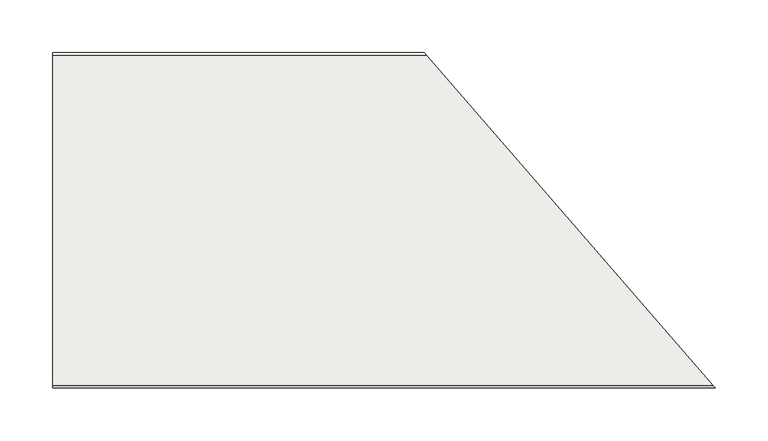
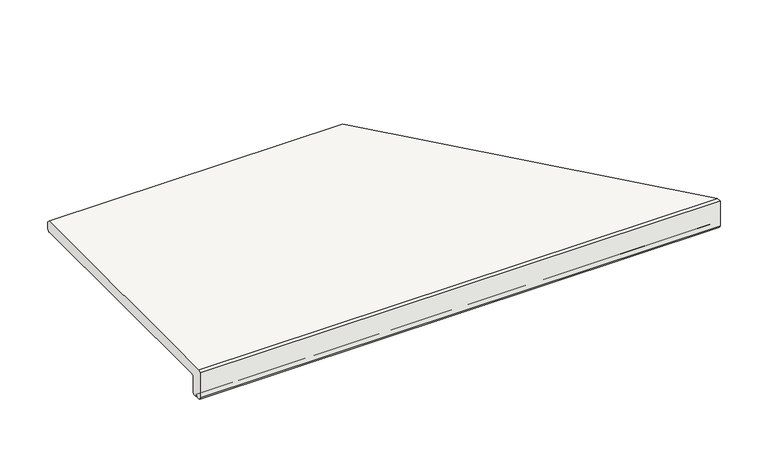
"""IFC4 building model written with IfcOpenShell, lengths in millimetres: slab geometry, ROSA GRES_L62 (corte-profundidad) : Pieza L62_Mistery_Grey_Anti-Slip."""

from ifc_helpers import new_model, si_unit, frame, origin, place, context, project, spatial, polyline, circle_curve, ellipse_curve, source, transform, mapped, element, save
from ifc_brep_helpers import plane_surface, cylinder_surface, revolved_surface, advanced_brep


def slab_0be0ad86(model_context):
    return source(origin(), model_context, "Body", "AdvancedBrep", [
        advanced_brep(
        [(0.0, 11.8865989, -24.0), (0.0, 9.4124925, -24.0), (0.0, 9.4124925, -23.0), (0.0, 5.422949, -23.0), (0.0, 2.5, -23.0), (0.0, 0.0, -20.5), (0.0, 0.0, 11.5), (0.0, 2.5, 14.0), (0.0, 314.5, 14.0), (0.0, 317.0, 11.5), (0.0, 317.0, 2.5268156), (0.0, 314.5178771, 0.0446927), (0.0, 16.4230659, 0.0446927), (0.0, 13.8100559, -2.5683173), (0.0, 13.8100559, -22.076543), (615.2703915, 11.8865989, -24.0), (617.4135297, 9.4124925, -24.0), (617.4135297, 9.4124925, -23.0), (620.8693806, 5.422949, -23.0), (623.4013185, 2.5, -23.0), (625.5668864, 0.0, -20.5), (625.5668864, 0.0, 11.5), (623.4013185, 2.5, 14.0), (353.1384405, 314.5, 14.0), (350.9728726, 317.0, 11.5), (350.9728726, 317.0, 2.5268156), (353.1229549, 314.5178771, 0.0446927), (611.3407804, 16.4230659, 0.0446927), (613.6042408, 13.8100559, -2.5683173), (613.6042408, 13.8100559, -22.076543)],
        [
            (0, 1),
            (1, 2),
            (2, 3, circle_curve(frame((0.0, 7.4177208, -23.0), z_axis=(1.0, 0.0, 0.0), x_axis=(0.0, 1.0, 0.0)), 1.9947717)),
            (3, 4),
            (4, 5, circle_curve(frame((0.0, 2.5, -20.5), z_axis=(-1.0, 0.0, 0.0), x_axis=(0.0, 1.0, 0.0)), 2.5)),
            (5, 6),
            (6, 7),
            (7, 8),
            (8, 9),
            (9, 10),
            (10, 11, circle_curve(frame((0.0, 314.5178771, 2.5268156), z_axis=(-1.0, 0.0, 0.0), x_axis=(0.0, 1.0, 0.0)), 2.4821229)),
            (11, 12),
            (12, 13, circle_curve(frame((0.0, 16.4230659, -2.5683173), z_axis=(1.0, 0.0, 0.0), x_axis=(0.0, 1.0, 0.0)), 2.6130101)),
            (13, 14),
            (14, 0, circle_curve(frame((0.0, 11.8865989, -22.076543), z_axis=(-1.0, 0.0, 0.0), x_axis=(0.0, 1.0, 0.0)), 1.923457)),
            (0, 15),
            (15, 16),
            (16, 1),
            (2, 17),
            (17, 18, ellipse_curve(frame((619.1414551, 7.4177208, -23.0), z_axis=(0.7558534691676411, 0.6547408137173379, 0.0), x_axis=(0.654740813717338, -0.7558534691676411, 0.0)), 2.6390985, 1.9947717)),
            (18, 3),
            (18, 19),
            (19, 4),
            (19, 20, ellipse_curve(frame((623.4013185, 2.5, -20.5), z_axis=(-0.7558534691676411, -0.6547408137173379, 0.0), x_axis=(-0.654740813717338, 0.7558534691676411, 0.0)), 3.3075194, 2.5)),
            (20, 5),
            (20, 21),
            (21, 6),
            (7, 22),
            (22, 23),
            (23, 8),
            (9, 24),
            (24, 25),
            (25, 10),
            (25, 26, ellipse_curve(frame((353.1229549, 314.5178771, 2.5268156), z_axis=(-0.7558534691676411, -0.6547408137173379, 0.0), x_axis=(-0.654740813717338, 0.7558534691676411, 0.0)), 3.2838678, 2.4821229)),
            (26, 11),
            (26, 27),
            (27, 12),
            (27, 28, ellipse_curve(frame((611.3407804, 16.4230659, -2.5683173), z_axis=(0.7558534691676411, 0.6547408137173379, 0.0), x_axis=(0.654740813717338, -0.7558534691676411, 0.0)), 3.4570326, 2.6130101)),
            (28, 13),
            (28, 29),
            (29, 14),
            (29, 15, ellipse_curve(frame((615.2703915, 11.8865989, -22.076543), z_axis=(-0.7558534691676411, -0.6547408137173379, 0.0), x_axis=(-0.654740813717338, 0.7558534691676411, 0.0)), 2.5447485, 1.923457)),
            (21, 22),
            (23, 24),
            (16, 17),
        ],
        [
            plane_surface(frame((0.0, 0.0, 0.0), z_axis=(-1.0, 0.0, 0.0), x_axis=(0.0, 0.0, 1.0))),
            plane_surface(frame((0.0, 11.8865989, -24.0), z_axis=(0.0, 0.0, -1.0), x_axis=(1.0, 0.0, 0.0))),
            revolved_surface(polyline([(620.8693806, 9.412492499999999, -23.0), (0.0, 9.412492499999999, -23.0)]), (0.0, 7.4177208, -23.0), (1.0, 0.0, 0.0)),
            plane_surface(frame((0.0, 5.422949, -23.0), z_axis=(0.0, 0.0, -1.0), x_axis=(1.0, 0.0, 0.0))),
            cylinder_surface(frame((0.0, 2.5, -20.5), z_axis=(-1.0, 0.0, 0.0), x_axis=(0.0, 1.0, 0.0)), 2.5),
            plane_surface(frame((0.0, 0.0, -20.5), z_axis=(0.0, -1.0, 0.0), x_axis=(1.0, 0.0, 0.0))),
            plane_surface(frame((0.0, 2.5, 14.0), z_axis=(0.0, 0.0, 1.0), x_axis=(1.0, 0.0, 0.0))),
            plane_surface(frame((0.0, 317.0, 11.5), z_axis=(0.0, 1.0, 0.0), x_axis=(1.0, 0.0, 0.0))),
            cylinder_surface(frame((0.0, 314.5178771, 2.5268156), z_axis=(-1.0, 0.0, 0.0), x_axis=(0.0, 1.0, 0.0)), 2.4821229),
            plane_surface(frame((0.0, 314.5178771, 0.0446927), z_axis=(0.0, 0.0, -1.0), x_axis=(1.0, 0.0, 0.0))),
            revolved_surface(polyline([(613.6042408, 19.036076, -2.5683173), (0.0, 19.036076, -2.5683173)]), (0.0, 16.4230659, -2.5683173), (1.0, 0.0, 0.0)),
            plane_surface(frame((0.0, 13.8100559, -2.5683173), z_axis=(0.0, 1.0, 0.0), x_axis=(1.0, 0.0, 0.0))),
            cylinder_surface(frame((0.0, 11.8865989, -22.076543), z_axis=(-1.0, 0.0, 0.0), x_axis=(0.0, 1.0, 0.0)), 1.923457),
            plane_surface(frame((0.0, 0.0, 11.5), z_axis=(0.0, -0.7071067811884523, 0.7071067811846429), x_axis=(1.0, 0.0, 0.0))),
            plane_surface(frame((0.0, 314.5, 14.0), z_axis=(0.0, 0.7071067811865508, 0.7071067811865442), x_axis=(1.0, 0.0, 0.0))),
            plane_surface(frame((0.0, 9.4124925, -24.0), z_axis=(0.0, -1.0, 0.0), x_axis=(1.0, 0.0, 0.0))),
            plane_surface(frame((350.539759, 317.5, 86.9871832), z_axis=(0.7558534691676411, 0.6547408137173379, 0.0), x_axis=(0.0, 0.0, -1.0))),
        ],
        [
            (0, [[1, 2, 3, 4, 5, 6, 7, 8, 9, 10, 11, 12, 13, 14, 15]]),
            (1, [[-1, 16, 17, 18]]),
            (2, [[-3, 19, 20, 21]]),
            (3, [[-4, -21, 22, 23]]),
            (4, [[-5, -23, 24, 25]]),
            (5, [[-6, -25, 26, 27]]),
            (6, [[-8, 28, 29, 30]]),
            (7, [[-10, 31, 32, 33]]),
            (8, [[-11, -33, 34, 35]]),
            (9, [[-12, -35, 36, 37]]),
            (10, [[-13, -37, 38, 39]]),
            (11, [[-14, -39, 40, 41]]),
            (12, [[-15, -41, 42, -16]]),
            (13, [[-7, -27, 43, -28]]),
            (14, [[-9, -30, 44, -31]]),
            (15, [[-2, -18, 45, -19]]),
            (16, [[-17, -42, -40, -38, -36, -34, -32, -44, -29, -43, -26, -24, -22, -20, -45]]),
        ],
    ),
    ])


if __name__ == "__main__":
    model = new_model("IFC4")
    model_context = context("Model", 3, world=origin())
    ifc_project = project(units=[si_unit("LENGTHUNIT", "METRE", prefix="MILLI")], contexts=[model_context])
    site = spatial("IfcSite", under=ifc_project)
    building = spatial("IfcBuilding", under=site)
    placement = place(None, origin())
    slab_shape = slab_0be0ad86(model_context)
    element("IfcSlab", 1, ObjectType="ROSA GRES_L62 (corte-profundidad) : Pieza L62_Mistery_Grey_Anti-Slip", at=placement, inside=building, context=model_context, shape_type="MappedRepresentation", body=[
        mapped(slab_shape, transform((0.0, 0.0, 0.0), x_axis=(1.0, 0.0, 0.0), y_axis=(0.0, 1.0, 0.0), z_axis=(0.0, 0.0, 1.0))),
    ])
    save(model, "model.ifc")
